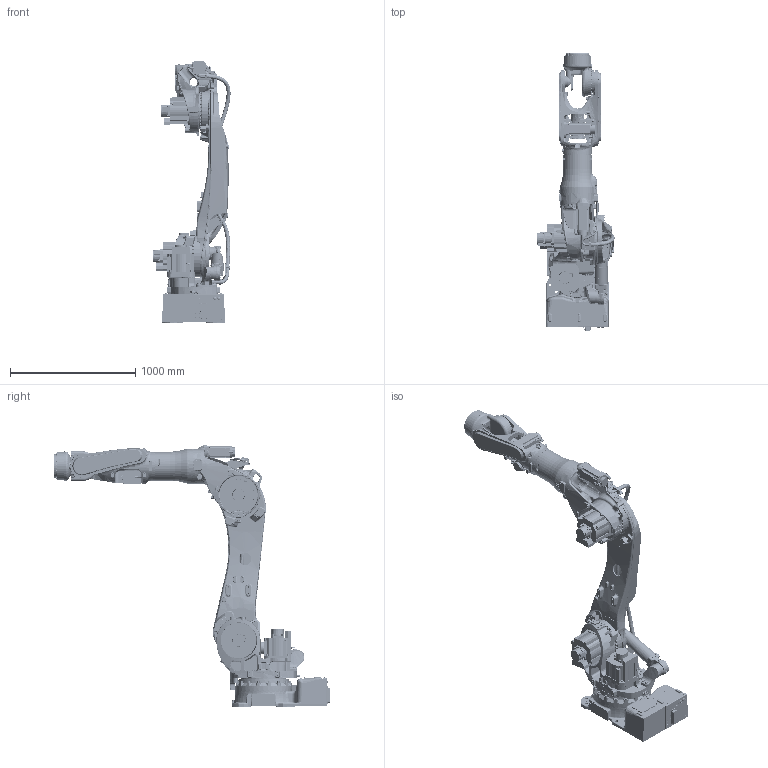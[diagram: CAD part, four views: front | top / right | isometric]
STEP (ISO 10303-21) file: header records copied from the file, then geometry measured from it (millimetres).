
FILE_DESCRIPTION(('CATIA V5 STEP Exchange'),'2;1');
FILE_NAME('D:\モデリング\☆☆☆STEP\BXP\BXP210L-A0xx_201215\軽量化_STEP\Part\BXP210L-A011 for A001\BXP210L-A001.stp','2021-01-19T02:45:16+00:00',('none'),('none'),'CATIA Version 5-6 Release 2016 SP6 HF14','CATIA V5 STEP AP203','none');
FILE_SCHEMA(('CONFIG_CONTROL_DESIGN'));
Products named in the file (1): BXP210L-A001
Assembly tree (9 placements, depth 2):
  BXP210L-A001
    #57
    #54723
    #128115
    #240635
    #317249
    #417507
    #442687
    #446068
    #458856
Bounding box: 615.31 x 2207.3 x 2087.41 mm (x, y, z)
Volume: 210898091.4 mm3; surface area: 10732570.8 mm2
Topology: 62 solids, 62 shells, 10092 faces, 25172 edges, 15401 vertices
Faces by surface type: plane 3073, cylinder 2992, bspline 2350, cone 814, torus 441, extrusion 190, sphere 147, revolution 85
Entity records: 476377 total; most frequent: CARTESIAN_POINT 273221, ORIENTED_EDGE 49304, DIRECTION 26996, EDGE_CURVE 24652, VERTEX_POINT 15401, AXIS2_PLACEMENT_3D 12628, EDGE_LOOP 11005, ADVANCED_FACE 10092
